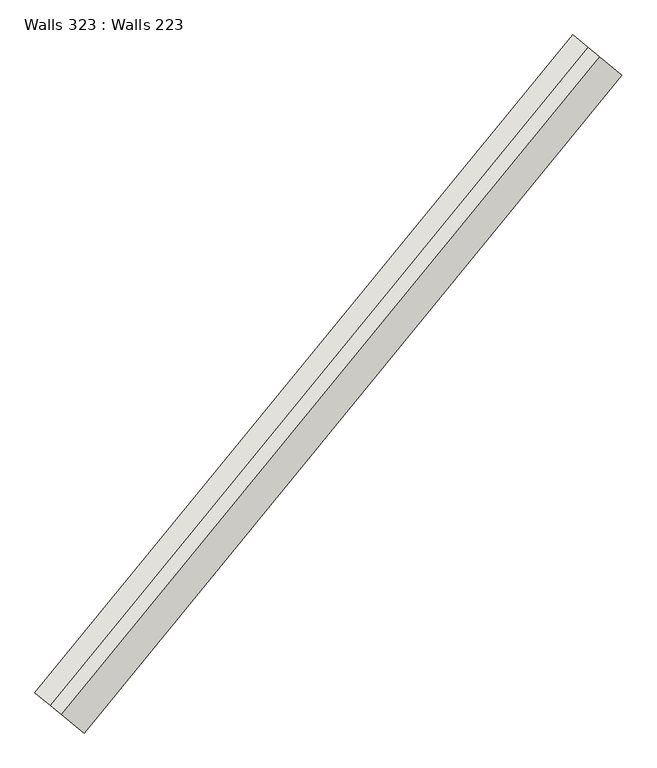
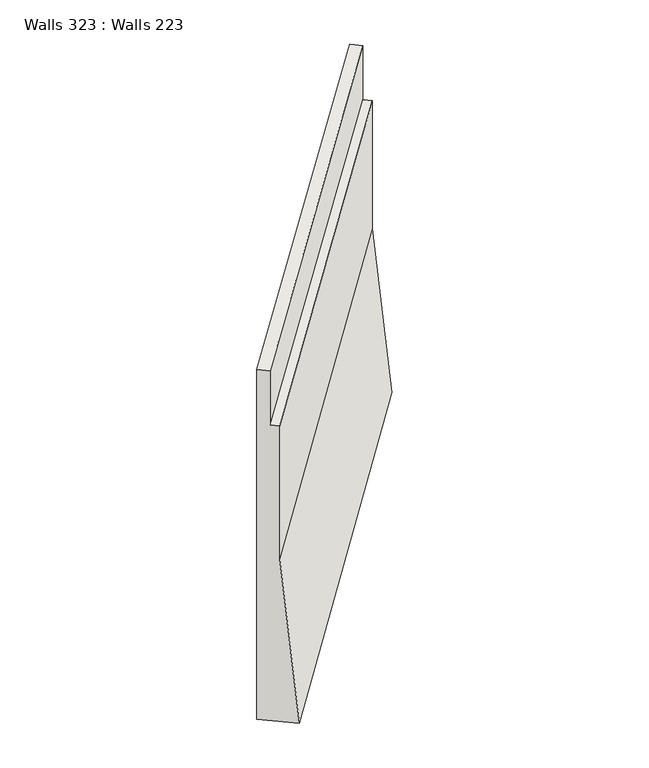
"""IFC4 building model written with IfcOpenShell, lengths in millimetres: wall geometry, Walls 323 : Walls 223."""

import ifcopenshell
import ifcopenshell.guid

model = None  # the IFC model being written
_history = None  # IfcOwnerHistory: only IFC2X3 demands one
_inside = {}  # id of a spatial element -> (the spatial element, [elements in it])
_under = {}  # id of a project, library or spatial element -> (it, [spatial elements below it])
_declared = {}  # id of a project -> (the project, [libraries it declares])
_typed = {}  # id of a type object -> (the type object, [elements of that type])
_made_of = {}  # id of a material, layer set ... -> (it, [elements and type objects made of it])


def new_model(schema):
    """Start an empty IFC model of exactly this schema.

    Asked for "IFC4X3", IfcOpenShell would pick the latest addendum, in which some entities
    have other attributes; the version numbers below select the first issue.
    IFC2X3 requires an IfcOwnerHistory on every rooted entity: one is made here for all.
    """
    global model, _history
    if schema == "IFC4X3":
        model = ifcopenshell.file(schema_version=(4, 3, 0, 0))
    else:
        model = ifcopenshell.file(schema=schema)
    _inside.clear()
    _under.clear()
    _declared.clear()
    _typed.clear()
    _made_of.clear()
    _history = None
    if model.schema == "IFC2X3":
        org = make("IfcOrganization", Name="unknown")
        user = make(
            "IfcPersonAndOrganization",
            ThePerson=make("IfcPerson", FamilyName="unknown"),
            TheOrganization=org,
        )
        app = make(
            "IfcApplication",
            ApplicationDeveloper=org,
            Version="unknown",
            ApplicationFullName="unknown",
            ApplicationIdentifier="unknown",
        )
        _history = make(
            "IfcOwnerHistory",
            OwningUser=user,
            OwningApplication=app,
            ChangeAction="ADDED",
            CreationDate=0,
        )
    return model


def make(cls, **values):
    """One entity of the class cls with the attributes given. An attribute that is None is left unset."""
    return model.create_entity(
        cls, **{name: value for name, value in values.items() if value is not None}
    )


def rooted(cls, **values):
    """An entity with a GlobalId (a new one), such as an element, a storey or a relation."""
    return make(cls, GlobalId=ifcopenshell.guid.new(), OwnerHistory=_history, **values)


def si_unit(unit_type, name, prefix=None):
    """IfcSIUnit, for example si_unit("LENGTHUNIT", "METRE", prefix="MILLI")."""
    return make("IfcSIUnit", UnitType=unit_type, Prefix=prefix, Name=name)


def assignment(units):
    """IfcUnitAssignment: the units of a project."""
    return None if units is None else make("IfcUnitAssignment", Units=units)


def point(xyz):
    """IfcCartesianPoint."""
    return None if xyz is None else make("IfcCartesianPoint", Coordinates=xyz)


def direction(xyz):
    """IfcDirection."""
    return None if xyz is None else make("IfcDirection", DirectionRatios=xyz)


def frame(location, z_axis=None, x_axis=None):
    """IfcAxis2Placement3D, a coordinate frame: its origin and axes. An axis left out is left unset."""
    return make(
        "IfcAxis2Placement3D",
        Location=point(location),
        Axis=direction(z_axis),
        RefDirection=direction(x_axis),
    )


def origin():
    """The frame at (0, 0, 0) with its axes left unset."""
    return frame((0.0, 0.0, 0.0))


def place(relative_to, where):
    """IfcLocalPlacement: puts the frame where relative to a parent placement (None: the world)."""
    return make(
        "IfcLocalPlacement", PlacementRelTo=relative_to, RelativePlacement=where
    )


def context(
    kind, dimensions, precision=None, world=None, true_north=None, identifier=None
):
    """IfcGeometricRepresentationContext, for example the 3D "Model" context."""
    return make(
        "IfcGeometricRepresentationContext",
        ContextIdentifier=identifier,
        ContextType=kind,
        CoordinateSpaceDimension=dimensions,
        Precision=precision,
        WorldCoordinateSystem=world,
        TrueNorth=true_north,
    )


def project(units=None, contexts=None):
    """IfcProject with its units and contexts."""
    return rooted(
        "IfcProject",
        Name="project",
        RepresentationContexts=contexts,
        UnitsInContext=assignment(units),
    )


def spatial(cls, under=None, at=None, **own):
    """A site, building, storey or space (cls), placed at a placement, below another one or the project."""
    s = rooted(cls, ObjectPlacement=at, **own)
    if under is not None:
        _under.setdefault(under.id(), (under, []))[1].append(s)
    return s


def faces_of(points, faces, orient=None, outer=None):
    """IfcFace entities. A face is a list of loops; a loop is a list of indices into points, from 0.

    orient and outer hold one flag for each loop. By default every Orientation is true, the
    first loop of a face is its IfcFaceOuterBound and the others are IfcFaceBound.
    """
    made = []
    for i, loops in enumerate(faces):
        bounds = []
        for j, loop in enumerate(loops):
            is_outer = j == 0 if outer is None else outer[i][j]
            bounds.append(
                make(
                    "IfcFaceOuterBound" if is_outer else "IfcFaceBound",
                    Bound=make("IfcPolyLoop", Polygon=[points[k] for k in loop]),
                    Orientation=True if orient is None else orient[i][j],
                )
            )
        made.append(make("IfcFace", Bounds=bounds))
    return made


def faceted_brep(points, faces, orient=None, outer=None, voids=None):
    """IfcFacetedBrep: a solid bounded by flat faces; with voids (closed shells), ...WithVoids."""
    shared = [point(p) for p in points]
    hull = make("IfcClosedShell", CfsFaces=faces_of(shared, faces, orient, outer))
    if voids is None:
        return make("IfcFacetedBrep", Outer=hull)
    return make(
        "IfcFacetedBrepWithVoids",
        Outer=hull,
        Voids=[
            make(cls, CfsFaces=faces_of(shared, fs, o, b)) for cls, fs, o, b in voids
        ],
    )


def shape(context_of_items, identifier, shape_type, items):
    """IfcShapeRepresentation: the items that make up one representation, for example the "Body"."""
    return make(
        "IfcShapeRepresentation",
        ContextOfItems=context_of_items,
        RepresentationIdentifier=identifier,
        RepresentationType=shape_type,
        Items=items,
    )


def source(mapping_origin, context_of_items, identifier, shape_type, items):
    """IfcRepresentationMap: a shape defined once, which mapped items show again and again."""
    return make(
        "IfcRepresentationMap",
        MappingOrigin=mapping_origin,
        MappedRepresentation=shape(context_of_items, identifier, shape_type, items),
    )


def transform(
    local_origin,
    x_axis=None,
    y_axis=None,
    z_axis=None,
    scale=None,
    scale2=None,
    scale3=None,
    uniform=True,
):
    """IfcCartesianTransformationOperator3D, or its non-uniform kind. x_axis, y_axis, z_axis: its Axis1, 2, 3."""
    if uniform:
        return make(
            "IfcCartesianTransformationOperator3D",
            Axis1=direction(x_axis),
            Axis2=direction(y_axis),
            LocalOrigin=point(local_origin),
            Scale=scale,
            Axis3=direction(z_axis),
        )
    return make(
        "IfcCartesianTransformationOperator3DnonUniform",
        Axis1=direction(x_axis),
        Axis2=direction(y_axis),
        LocalOrigin=point(local_origin),
        Scale=scale,
        Axis3=direction(z_axis),
        Scale2=scale2,
        Scale3=scale3,
    )


def mapped(mapping_source, mapping_target):
    """IfcMappedItem: shows the shape of a source again, moved by a transform."""
    return make(
        "IfcMappedItem", MappingSource=mapping_source, MappingTarget=mapping_target
    )


def made_of(thing, what):
    """Note that an element or type object is made of a material, layer set ...; save() writes the relation."""
    if what is not None:
        _made_of.setdefault(what.id(), (what, []))[1].append(thing)
    return thing


def element(
    cls,
    number,
    at=None,
    inside=None,
    cuts=None,
    type_object=None,
    material=None,
    context=None,
    identifier="Body",
    shape_type=None,
    held_by="IfcProductDefinitionShape",
    body=None,
    shapes=None,
    **own,
):
    """One element of the class cls, such as IfcWall. Its Tag is "e" and its number.

    at: its placement. inside: the storey or other place that contains it. cuts: it is an
    opening in that element (IfcRelVoidsElement). A single representation is given by context,
    identifier, shape_type and body (its items); several are given by shapes. held_by: the class
    of the entity that holds the representations. save() writes the other relations.
    """
    e = rooted(cls, Tag="e%d" % number, ObjectPlacement=at, **own)
    if body is not None:
        shapes = [shape(context, identifier, shape_type, body)]
    if shapes is not None:
        e.Representation = make(held_by, Representations=shapes)
    if inside is not None:
        _inside.setdefault(inside.id(), (inside, []))[1].append(e)
    if cuts is not None:
        rooted(
            "IfcRelVoidsElement", RelatingBuildingElement=cuts, RelatedOpeningElement=e
        )
    if type_object is not None:
        _typed.setdefault(type_object.id(), (type_object, []))[1].append(e)
    return made_of(e, material)


def aggregate(whole, parts):
    """IfcRelAggregates: a whole, such as a stair, and the parts it consists of."""
    return rooted("IfcRelAggregates", RelatingObject=whole, RelatedObjects=parts)


def save(model, path):
    """Write the relations noted so far, then the file.

    IfcRelAggregates (storeys below a building ...), IfcRelContainedInSpatialStructure (elements
    in a storey), IfcRelDefinesByType, IfcRelAssociatesMaterial and IfcRelDeclares: one each for
    every whole, place, type object, material and project.
    """
    for whole, parts in _under.values():
        aggregate(whole, parts)
    for where, things in _inside.values():
        rooted(
            "IfcRelContainedInSpatialStructure",
            RelatedElements=things,
            RelatingStructure=where,
        )
    for kind, things in _typed.values():
        rooted("IfcRelDefinesByType", RelatedObjects=things, RelatingType=kind)
    for what, things in _made_of.values():
        rooted("IfcRelAssociatesMaterial", RelatedObjects=things, RelatingMaterial=what)
    for by, libraries in _declared.values():
        rooted("IfcRelDeclares", RelatingContext=by, RelatedDefinitions=libraries)
    model.write(path)


def walls_323_walls_223_eaece9e2(model_context):
    return source(origin(), model_context, "Body", "Brep", [
        faceted_brep([(394299.6706669, 265633.2669758, 652184.9396572), (394299.6706669, 265633.2669758, 645714.0), (394802.7460388, 265221.6662346, 645714.0), (394570.5574056, 265411.6358074, 648714.0), (394570.5574056, 265411.6358074, 651184.9332007), (394454.463089, 265506.6205939, 651184.9332007), (394454.463089, 265506.6205939, 652184.9396572), (399808.7882806, 272366.7373389, 652197.0), (399963.5807027, 272240.090957, 652197.0), (399963.5807027, 272240.090957, 651197.0), (400079.6750193, 272145.1061706, 651197.0), (400079.6750193, 272145.1061706, 648826.0), (400311.8636525, 271955.1365977, 645826.0), (399808.7882806, 272366.7373389, 645826.0)], [[[0, 1, 2, 3, 4, 5, 6]], [[7, 8, 9, 10, 11, 12, 13]], [[12, 11, 3, 2]], [[11, 10, 4, 3]], [[10, 9, 5, 4]], [[9, 8, 6, 5]], [[8, 7, 0, 6]], [[7, 13, 1, 0]], [[13, 12, 2, 1]]]),
    ])


if __name__ == "__main__":
    model = new_model("IFC4")
    model_context = context("Model", 3, world=origin())
    ifc_project = project(units=[si_unit("LENGTHUNIT", "METRE", prefix="MILLI")], contexts=[model_context])
    site = spatial("IfcSite", under=ifc_project)
    building = spatial("IfcBuilding", under=site)
    placement = place(None, origin())
    walls_323_walls_223_shape = walls_323_walls_223_eaece9e2(model_context)
    element("IfcWall", 1, ObjectType="Walls 323 : Walls 223", at=placement, inside=building, context=model_context, shape_type="MappedRepresentation", body=[
        mapped(walls_323_walls_223_shape, transform((0.0, 0.0, 0.0), x_axis=(1.0, 0.0, 0.0), y_axis=(0.0, 1.0, 0.0), z_axis=(0.0, 0.0, 1.0))),
    ])
    save(model, "model.ifc")
